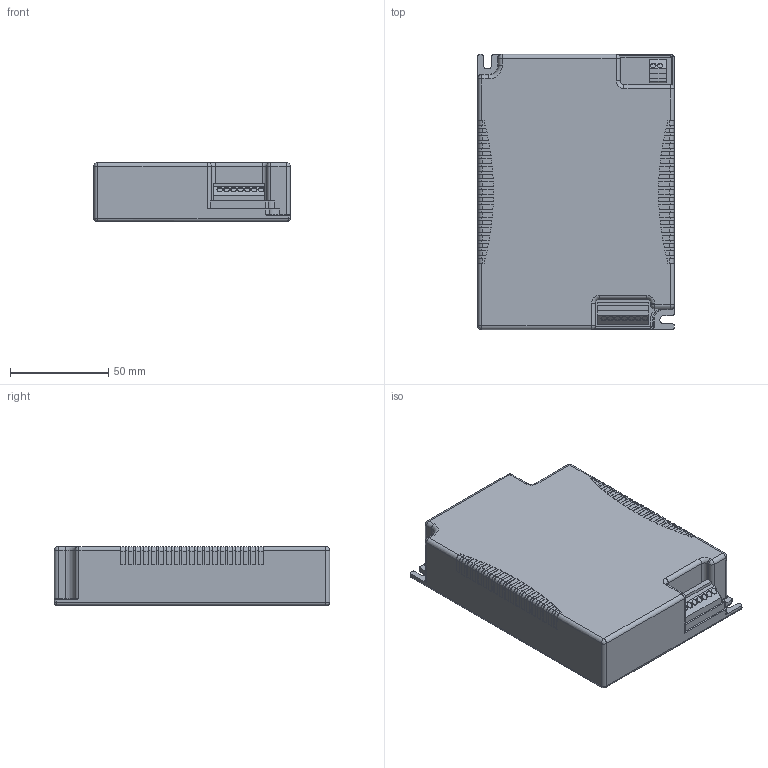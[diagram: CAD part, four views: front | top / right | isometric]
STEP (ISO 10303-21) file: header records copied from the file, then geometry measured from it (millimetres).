
FILE_DESCRIPTION((''),'2;1');
FILE_NAME('15010372Z_DATEMEC_PRE_ZC7_7POL','2016-08-25T',('juergen.hrach'),(''),'PRO/ENGINEER BY PARAMETRIC TECHNOLOGY CORPORATION, 2015200','PRO/ENGINEER BY PARAMETRIC TECHNOLOGY CORPORATION, 2015200','');
FILE_SCHEMA(('AUTOMOTIVE_DESIGN { 1 0 10303 214 1 1 1 1 }'));
Length unit declared in the file: millimetre
Products named in the file (1): 15010372Z_DATEMEC_PRE_ZC7_7POL
Bounding box: 100 x 140 x 30 mm (x, y, z)
Volume: 396789.1 mm3; surface area: 43918.1 mm2
Topology: 1 solids, 1 shells, 477 faces, 1328 edges, 864 vertices
Faces by surface type: plane 260, cylinder 187, torus 14, bspline 8, sphere 8
Entity records: 20732 total; most frequent: CARTESIAN_POINT 2996, ORIENTED_EDGE 2656, DIRECTION 2645, PRESENTATION_STYLE_ASSIGNMENT 1425, STYLED_ITEM 1329, CURVE_STYLE 1328, EDGE_CURVE 1328, VECTOR 921
